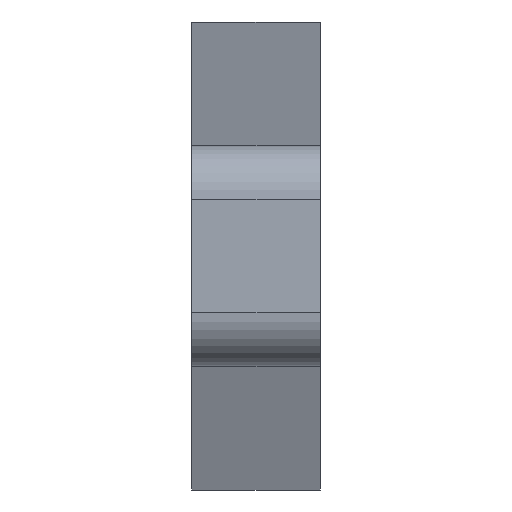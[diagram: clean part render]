
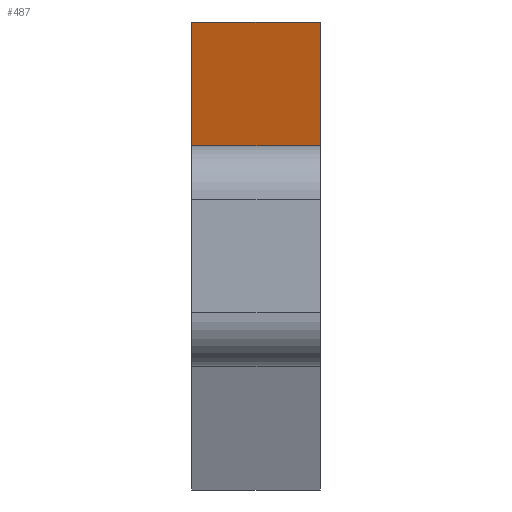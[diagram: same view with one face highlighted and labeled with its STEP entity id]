
A CAD part, left-side view. The second image highlights one B-rep face of the part: STEP entity #487.
In plain terms, the highlighted planar face has unit normal (-0.067, 0, 0.998).
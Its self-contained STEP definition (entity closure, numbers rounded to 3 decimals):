
#30=PLANE('',#538);
#48=FACE_OUTER_BOUND('',#77,.T.);
#77=EDGE_LOOP('',(#370,#371,#372,#373));
#110=LINE('',#754,#157);
#118=LINE('',#779,#165);
#119=LINE('',#782,#166);
#120=LINE('',#783,#167);
#157=VECTOR('',#600,10.);
#165=VECTOR('',#626,10.);
#166=VECTOR('',#629,10.);
#167=VECTOR('',#630,10.);
#229=VERTEX_POINT('',#751);
#230=VERTEX_POINT('',#753);
#238=VERTEX_POINT('',#777);
#239=VERTEX_POINT('',#781);
#277=EDGE_CURVE('',#230,#229,#110,.F.);
#290=EDGE_CURVE('',#238,#229,#118,.T.);
#291=EDGE_CURVE('',#238,#239,#119,.T.);
#292=EDGE_CURVE('',#239,#230,#120,.F.);
#370=ORIENTED_EDGE('',*,*,#290,.F.);
#371=ORIENTED_EDGE('',*,*,#291,.T.);
#372=ORIENTED_EDGE('',*,*,#292,.T.);
#373=ORIENTED_EDGE('',*,*,#277,.T.);
#487=ADVANCED_FACE('',(#48),#30,.T.);
#538=AXIS2_PLACEMENT_3D('',#780,#627,#628);
#600=DIRECTION('',(0.998,0.,0.067));
#626=DIRECTION('',(0.,1.,0.));
#627=DIRECTION('center_axis',(-0.067,0.,0.998));
#628=DIRECTION('ref_axis',(0.998,0.,0.067));
#629=DIRECTION('',(0.998,0.,0.067));
#630=DIRECTION('',(0.,-1.,0.));
#751=CARTESIAN_POINT('',(-35.067,1.,2.056));
#753=CARTESIAN_POINT('',(-0.5,1.,4.36));
#754=CARTESIAN_POINT('',(-10.126,1.,3.719));
#777=CARTESIAN_POINT('',(-35.067,-1.4,2.056));
#779=CARTESIAN_POINT('',(-35.067,-1.4,2.056));
#780=CARTESIAN_POINT('Origin',(-20.,-1.4,3.06));
#781=CARTESIAN_POINT('',(-0.5,-1.4,4.36));
#782=CARTESIAN_POINT('',(-10.126,-1.4,3.719));
#783=CARTESIAN_POINT('',(-0.5,-1.4,4.36));
